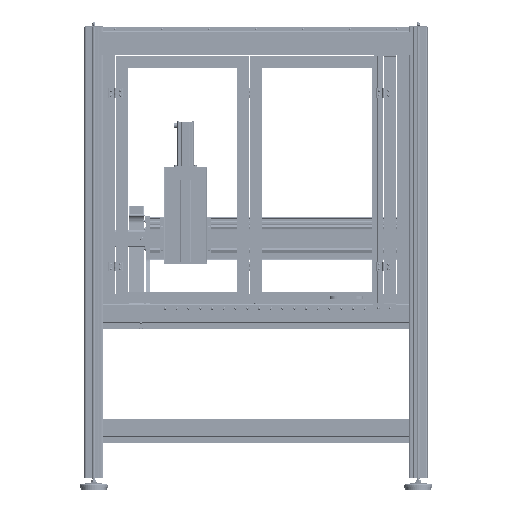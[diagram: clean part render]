
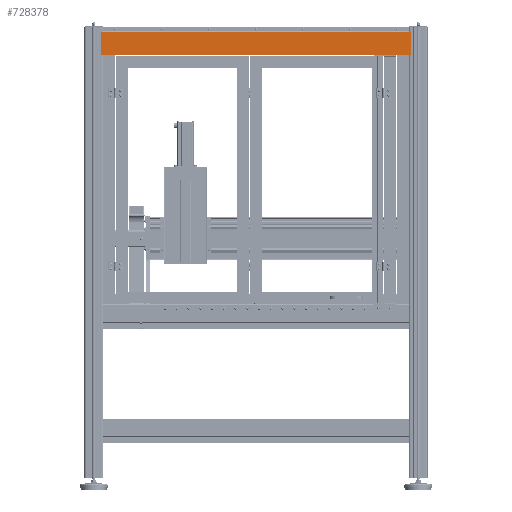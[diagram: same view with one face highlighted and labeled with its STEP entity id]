
A CAD part, top view. The second image highlights one B-rep face of the part: STEP entity #728378.
In plain terms, the highlighted planar face has unit normal (0, 0, 1).
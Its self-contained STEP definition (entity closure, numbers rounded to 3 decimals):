
#26141 = VERTEX_POINT ( 'NONE', #654331 ) ;
#45408 = VECTOR ( 'NONE', #485364, 1000. ) ;
#45878 = FACE_OUTER_BOUND ( 'NONE', #187255, .T. ) ;
#46722 = LINE ( 'NONE', #80820, #45408 ) ;
#52135 = EDGE_CURVE ( 'NONE', #564284, #26141, #276018, .T. ) ;
#53232 = CARTESIAN_POINT ( 'NONE',  ( 649., 1165.9, 725.499 ) ) ;
#53257 = CARTESIAN_POINT ( 'NONE',  ( 659., 1069.6, 725.499 ) ) ;
#80820 = CARTESIAN_POINT ( 'NONE',  ( -659., 1069.6, 725.499 ) ) ;
#83144 = VERTEX_POINT ( 'NONE', #215808 ) ;
#102002 = PLANE ( 'NONE',  #632990 ) ;
#107342 = ORIENTED_EDGE ( 'NONE', *, *, #154407, .T. ) ;
#126438 = VECTOR ( 'NONE', #161743, 1000. ) ;
#132080 = LINE ( 'NONE', #737687, #126438 ) ;
#147167 = EDGE_CURVE ( 'NONE', #395479, #287980, #531964, .T. ) ;
#151920 = ORIENTED_EDGE ( 'NONE', *, *, #52135, .T. ) ;
#154407 = EDGE_CURVE ( 'NONE', #659644, #312621, #481044, .T. ) ;
#161743 = DIRECTION ( 'NONE',  ( 1., 0., 0. ) ) ;
#187030 = CARTESIAN_POINT ( 'NONE',  ( 649., 1165.9, 725.499 ) ) ;
#187255 = EDGE_LOOP ( 'NONE', ( #206468, #151920, #459444, #596838, #555219, #107342, #230637, #364020 ) ) ;
#190638 = VERTEX_POINT ( 'NONE', #53232 ) ;
#192491 = CARTESIAN_POINT ( 'NONE',  ( 649., 1165.9, 725.499 ) ) ;
#200468 = VECTOR ( 'NONE', #596711, 1000. ) ;
#201174 = LINE ( 'NONE', #192491, #200468 ) ;
#206468 = ORIENTED_EDGE ( 'NONE', *, *, #434437, .T. ) ;
#210544 = CARTESIAN_POINT ( 'NONE',  ( -649., 1069.6, 725.499 ) ) ;
#215808 = CARTESIAN_POINT ( 'NONE',  ( 659., 1165.9, 725.499 ) ) ;
#218538 = CARTESIAN_POINT ( 'NONE',  ( 649., 1166.5, 725.499 ) ) ;
#228847 = CARTESIAN_POINT ( 'NONE',  ( -649., 1165.9, 725.499 ) ) ;
#230637 = ORIENTED_EDGE ( 'NONE', *, *, #310888, .T. ) ;
#259238 = CARTESIAN_POINT ( 'NONE',  ( -659., 1165.9, 725.499 ) ) ;
#273156 = VECTOR ( 'NONE', #336480, 1000. ) ;
#276018 = LINE ( 'NONE', #278267, #273156 ) ;
#276676 = DIRECTION ( 'NONE',  ( 1., 0., 0. ) ) ;
#277520 = EDGE_CURVE ( 'NONE', #659644, #190638, #710685, .T. ) ;
#278267 = CARTESIAN_POINT ( 'NONE',  ( 649., 1069.6, 725.499 ) ) ;
#287980 = VERTEX_POINT ( 'NONE', #210544 ) ;
#300559 = VECTOR ( 'NONE', #344181, 1000. ) ;
#306426 = LINE ( 'NONE', #53257, #300559 ) ;
#310888 = EDGE_CURVE ( 'NONE', #312621, #395479, #46722, .T. ) ;
#312621 = VERTEX_POINT ( 'NONE', #259238 ) ;
#327357 = CARTESIAN_POINT ( 'NONE',  ( 649., 1069.6, 725.499 ) ) ;
#336480 = DIRECTION ( 'NONE',  ( 1., 0., 0. ) ) ;
#344181 = DIRECTION ( 'NONE',  ( 0., 1., 0. ) ) ;
#364020 = ORIENTED_EDGE ( 'NONE', *, *, #147167, .T. ) ;
#395479 = VERTEX_POINT ( 'NONE', #508067 ) ;
#434437 = EDGE_CURVE ( 'NONE', #287980, #564284, #132080, .T. ) ;
#459444 = ORIENTED_EDGE ( 'NONE', *, *, #625816, .T. ) ;
#481044 = LINE ( 'NONE', #228847, #484588 ) ;
#484588 = VECTOR ( 'NONE', #632879, 1000. ) ;
#485364 = DIRECTION ( 'NONE',  ( 0., -1., 0. ) ) ;
#508067 = CARTESIAN_POINT ( 'NONE',  ( -659., 1069.6, 725.499 ) ) ;
#529964 = VECTOR ( 'NONE', #551471, 1000. ) ;
#531964 = LINE ( 'NONE', #720593, #529964 ) ;
#537576 = CARTESIAN_POINT ( 'NONE',  ( -649., 1165.9, 725.499 ) ) ;
#543479 = EDGE_CURVE ( 'NONE', #83144, #190638, #201174, .T. ) ;
#551471 = DIRECTION ( 'NONE',  ( 1., 0., 0. ) ) ;
#555219 = ORIENTED_EDGE ( 'NONE', *, *, #277520, .F. ) ;
#564284 = VERTEX_POINT ( 'NONE', #327357 ) ;
#591255 = DIRECTION ( 'NONE',  ( 1., 0., 0. ) ) ;
#596711 = DIRECTION ( 'NONE',  ( -1., 0., 0. ) ) ;
#596838 = ORIENTED_EDGE ( 'NONE', *, *, #543479, .T. ) ;
#622608 = DIRECTION ( 'NONE',  ( 0., 0., -1. ) ) ;
#625816 = EDGE_CURVE ( 'NONE', #26141, #83144, #306426, .T. ) ;
#632879 = DIRECTION ( 'NONE',  ( -1., 0., 0. ) ) ;
#632990 = AXIS2_PLACEMENT_3D ( 'NONE', #218538, #622608, #276676 ) ;
#654331 = CARTESIAN_POINT ( 'NONE',  ( 659., 1069.6, 725.499 ) ) ;
#659644 = VERTEX_POINT ( 'NONE', #537576 ) ;
#709938 = VECTOR ( 'NONE', #591255, 1000. ) ;
#710685 = LINE ( 'NONE', #187030, #709938 ) ;
#720593 = CARTESIAN_POINT ( 'NONE',  ( -649., 1069.6, 725.499 ) ) ;
#728378 = ADVANCED_FACE ( 'NONE', ( #45878 ), #102002, .F. ) ;
#737687 = CARTESIAN_POINT ( 'NONE',  ( -649., 1069.6, 725.499 ) ) ;
